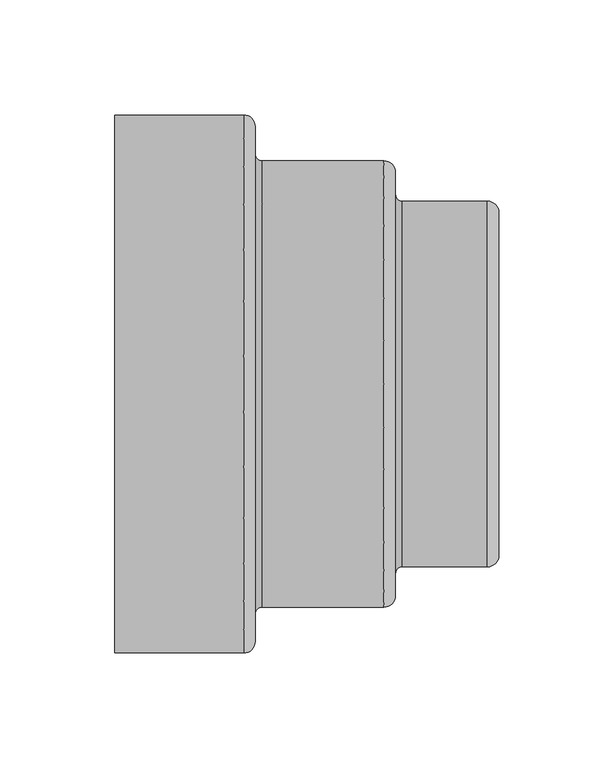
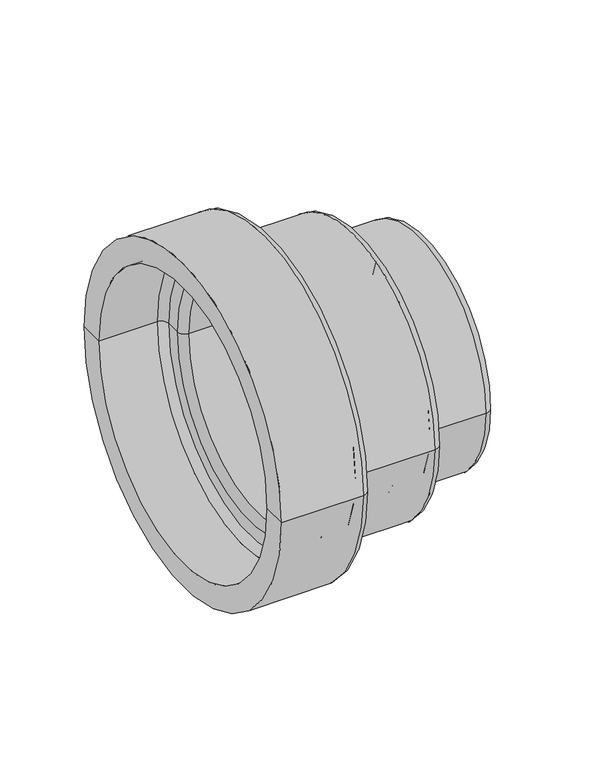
"""IFC4 building model written with IfcOpenShell, lengths in millimetres: duct fitting geometry, HEATPEX - ARIA ADURO - Redukcja : HEATPEX - ARIA ADURO - Redukcja."""

from ifc_helpers import new_model, si_unit, point, frame, origin, place, context, project, spatial, polyline, circle_curve, ellipse_curve, trimmed, source, transform, mapped, element, save
from ifc_brep_helpers import plane_surface, cylinder_surface, revolved_surface, advanced_brep


def duct_fitting_39894b4e(model_context):
    return source(origin(), model_context, "Body", "AdvancedBrep", [
        advanced_brep(
        [(-83.5, -117.0, 0.0), (-83.5, 117.0, 0.0), (-27.5, 117.0, 0.0), (-27.5, -117.0, 0.0), (-83.5, -100.0, 0.0), (-83.5, 100.0, 0.0), (-43.5, -100.0, 0.0), (-43.5, 100.0, 0.0), (-38.5, -95.0, 0.0), (-38.5, 95.0, 0.0), (-38.5, -85.0, 0.0), (-38.5, 85.0, 0.0), (-33.5, -80.0, 0.0), (-33.5, 80.0, 0.0), (17.5, -80.0, 0.0), (17.5, 80.0, 0.0), (22.5, -75.0, 0.0), (22.5, 75.0, 0.0), (22.5, -67.5, 0.0), (22.5, 67.5, 0.0), (27.5, -62.5, 0.0), (27.5, 62.5, 0.0), (80.5, -62.5, 0.0), (80.5, 62.5, 0.0), (83.5, -65.5, 0.0), (83.5, 65.5, 0.0), (83.5, -74.5000001, 0.0), (83.5, 74.5000001, 0.0), (78.5, -79.5000001, 0.0), (78.5, 79.5000001, 0.0), (41.5, -79.5000001, 0.0), (41.5, 79.5000001, 0.0), (38.5, -82.5000001, 0.0), (38.5, 82.5000001, 0.0), (38.5, -91.9999999, 0.0), (38.5, 91.9999999, 0.0), (33.5, -96.9999999, 0.0), (33.5, 96.9999999, 0.0), (-19.5, -96.9999999, 0.0), (-19.5, 96.9999999, 0.0), (-22.5, -99.9999999, 0.0), (-22.5, 99.9999999, 0.0), (-22.5, -112.0, 0.0), (-22.5, 112.0, 0.0)],
        [
            (0, 1, circle_curve(frame((-83.5, 0.0, 0.0), z_axis=(1.0, 0.0, 0.0), x_axis=(0.0, 1.0, 0.0)), 117.0)),
            (1, 2),
            (2, 3, circle_curve(frame((-27.5, 0.0, 0.0), z_axis=(-1.0, 0.0, 0.0), x_axis=(0.0, 1.0, 0.0)), 117.0)),
            (3, 0),
            (1, 0, circle_curve(frame((-83.5, 0.0, 0.0), z_axis=(1.0, 0.0, 0.0), x_axis=(0.0, 1.0, 0.0)), 117.0)),
            (3, 2, circle_curve(frame((-27.5, 0.0, 0.0), z_axis=(-1.0, 0.0, 0.0), x_axis=(0.0, 1.0, 0.0)), 117.0)),
            (0, 4),
            (4, 5, circle_curve(frame((-83.5, 0.0, 0.0), z_axis=(1.0, 0.0, 0.0), x_axis=(0.0, 1.0, 0.0)), 100.0)),
            (5, 1),
            (5, 4, circle_curve(frame((-83.5, 0.0, 0.0), z_axis=(1.0, 0.0, 0.0), x_axis=(0.0, 1.0, 0.0)), 100.0)),
            (4, 6),
            (6, 7, circle_curve(frame((-43.5, 0.0, 0.0), z_axis=(1.0, 0.0, 0.0), x_axis=(0.0, 1.0, 0.0)), 100.0)),
            (7, 5),
            (7, 6, circle_curve(frame((-43.5, 0.0, 0.0), z_axis=(1.0, 0.0, 0.0), x_axis=(0.0, 1.0, 0.0)), 100.0)),
            (6, 8, circle_curve(frame((-43.5, -95.0, 0.0), z_axis=(0.0, 0.0, 1.0), x_axis=(1.0, 0.0, 0.0)), 5.0)),
            (8, 9, circle_curve(frame((-38.5, 0.0, 0.0), z_axis=(1.0, 0.0, 0.0), x_axis=(0.0, 1.0, 0.0)), 95.0)),
            (9, 7, circle_curve(frame((-43.5, 95.0, 0.0), z_axis=(0.0, 0.0, 1.0), x_axis=(1.0, 0.0, 0.0)), 5.0)),
            (9, 8, circle_curve(frame((-38.5, 0.0, 0.0), z_axis=(1.0, 0.0, 0.0), x_axis=(0.0, 1.0, 0.0)), 95.0)),
            (8, 10),
            (10, 11, circle_curve(frame((-38.5, 0.0, 0.0), z_axis=(1.0, 0.0, 0.0), x_axis=(0.0, 1.0, 0.0)), 85.0)),
            (11, 9),
            (11, 10, circle_curve(frame((-38.5, 0.0, 0.0), z_axis=(1.0, 0.0, 0.0), x_axis=(0.0, 1.0, 0.0)), 85.0)),
            (10, 12, circle_curve(frame((-33.5, -85.0, 0.0), z_axis=(0.0, 0.0, -1.0), x_axis=(1.0, 0.0, 0.0)), 5.0)),
            (12, 13, circle_curve(frame((-33.5, 0.0, 0.0), z_axis=(1.0, 0.0, 0.0), x_axis=(0.0, 1.0, 0.0)), 80.0)),
            (13, 11, circle_curve(frame((-33.5, 85.0, 0.0), z_axis=(0.0, 0.0, -1.0), x_axis=(1.0, 0.0, 0.0)), 5.0)),
            (13, 12, circle_curve(frame((-33.5, 0.0, 0.0), z_axis=(1.0, 0.0, 0.0), x_axis=(0.0, 1.0, 0.0)), 80.0)),
            (12, 14),
            (14, 15, circle_curve(frame((17.5, 0.0, 0.0), z_axis=(1.0, 0.0, 0.0), x_axis=(0.0, 1.0, 0.0)), 80.0)),
            (15, 13),
            (15, 14, circle_curve(frame((17.5, 0.0, 0.0), z_axis=(1.0, 0.0, 0.0), x_axis=(0.0, 1.0, 0.0)), 80.0)),
            (14, 16, circle_curve(frame((17.5, -75.0, 0.0), z_axis=(0.0, 0.0, 1.0), x_axis=(1.0, 0.0, 0.0)), 5.0)),
            (16, 17, circle_curve(frame((22.5, 0.0, 0.0), z_axis=(1.0, 0.0, 0.0), x_axis=(0.0, 1.0, 0.0)), 75.0)),
            (17, 15, circle_curve(frame((17.5, 75.0, 0.0), z_axis=(0.0, 0.0, 1.0), x_axis=(1.0, 0.0, 0.0)), 5.0)),
            (17, 16, circle_curve(frame((22.5, 0.0, 0.0), z_axis=(1.0, 0.0, 0.0), x_axis=(0.0, 1.0, 0.0)), 75.0)),
            (16, 18),
            (18, 19, circle_curve(frame((22.5, 0.0, 0.0), z_axis=(1.0, 0.0, 0.0), x_axis=(0.0, 1.0, 0.0)), 67.5)),
            (19, 17),
            (19, 18, circle_curve(frame((22.5, 0.0, 0.0), z_axis=(1.0, 0.0, 0.0), x_axis=(0.0, 1.0, 0.0)), 67.5)),
            (18, 20, circle_curve(frame((27.5, -67.5, 0.0), z_axis=(0.0, 0.0, -1.0), x_axis=(1.0, 0.0, 0.0)), 5.0)),
            (20, 21, circle_curve(frame((27.5, 0.0, 0.0), z_axis=(1.0, 0.0, 0.0), x_axis=(0.0, 1.0, 0.0)), 62.5)),
            (21, 19, circle_curve(frame((27.5, 67.5, 0.0), z_axis=(0.0, 0.0, -1.0), x_axis=(1.0, 0.0, 0.0)), 5.0)),
            (21, 20, circle_curve(frame((27.5, 0.0, 0.0), z_axis=(1.0, 0.0, 0.0), x_axis=(0.0, 1.0, 0.0)), 62.5)),
            (20, 22),
            (22, 23, circle_curve(frame((80.5, 0.0, 0.0), z_axis=(1.0, 0.0, 0.0), x_axis=(0.0, 1.0, 0.0)), 62.5)),
            (23, 21),
            (23, 22, circle_curve(frame((80.5, 0.0, 0.0), z_axis=(1.0, 0.0, 0.0), x_axis=(0.0, 1.0, 0.0)), 62.5)),
            (22, 24, circle_curve(frame((80.5, -65.5, 0.0), z_axis=(0.0, 0.0, -1.0), x_axis=(1.0, 0.0, 0.0)), 3.0)),
            (24, 25, circle_curve(frame((83.5, 0.0, 0.0), z_axis=(1.0, 0.0, 0.0), x_axis=(0.0, 1.0, 0.0)), 65.5)),
            (25, 23, circle_curve(frame((80.5, 65.5, 0.0), z_axis=(0.0, 0.0, -1.0), x_axis=(1.0, 0.0, 0.0)), 3.0)),
            (25, 24, circle_curve(frame((83.5, 0.0, 0.0), z_axis=(1.0, 0.0, 0.0), x_axis=(0.0, 1.0, 0.0)), 65.5)),
            (24, 26),
            (26, 27, circle_curve(frame((83.5, 0.0, 0.0), z_axis=(1.0, 0.0, 0.0), x_axis=(0.0, 1.0, 0.0)), 74.5000001)),
            (27, 25),
            (27, 26, circle_curve(frame((83.5, 0.0, 0.0), z_axis=(1.0, 0.0, 0.0), x_axis=(0.0, 1.0, 0.0)), 74.5000001)),
            (26, 28, circle_curve(frame((78.5, -74.5000001, 0.0), z_axis=(0.0, 0.0, -1.0), x_axis=(1.0, 0.0, 0.0)), 5.0)),
            (28, 29, circle_curve(frame((78.5, 0.0, 0.0), z_axis=(1.0, 0.0, 0.0), x_axis=(0.0, 1.0, 0.0)), 79.5000001)),
            (29, 27, circle_curve(frame((78.5, 74.5000001, 0.0), z_axis=(0.0, 0.0, -1.0), x_axis=(1.0, 0.0, 0.0)), 5.0)),
            (29, 28, circle_curve(frame((78.5, 0.0, 0.0), z_axis=(1.0, 0.0, 0.0), x_axis=(0.0, 1.0, 0.0)), 79.5000001)),
            (28, 30),
            (30, 31, circle_curve(frame((41.5, 0.0, 0.0), z_axis=(1.0, 0.0, 0.0), x_axis=(0.0, 1.0, 0.0)), 79.5000001)),
            (31, 29),
            (31, 30, circle_curve(frame((41.5, 0.0, 0.0), z_axis=(1.0, 0.0, 0.0), x_axis=(0.0, 1.0, 0.0)), 79.5000001)),
            (30, 32, circle_curve(frame((41.5, -82.5000001, 0.0), z_axis=(0.0, 0.0, 1.0), x_axis=(1.0, 0.0, 0.0)), 3.0)),
            (32, 33, circle_curve(frame((38.5, 0.0, 0.0), z_axis=(1.0, 0.0, 0.0), x_axis=(0.0, 1.0, 0.0)), 82.5000001)),
            (33, 31, circle_curve(frame((41.5, 82.5000001, 0.0), z_axis=(0.0, 0.0, 1.0), x_axis=(1.0, 0.0, 0.0)), 3.0)),
            (33, 32, circle_curve(frame((38.5, 0.0, 0.0), z_axis=(1.0, 0.0, 0.0), x_axis=(0.0, 1.0, 0.0)), 82.5000001)),
            (32, 34),
            (34, 35, circle_curve(frame((38.5, 0.0, 0.0), z_axis=(1.0, 0.0, 0.0), x_axis=(0.0, 1.0, 0.0)), 91.9999999)),
            (35, 33),
            (35, 34, circle_curve(frame((38.5, 0.0, 0.0), z_axis=(1.0, 0.0, 0.0), x_axis=(0.0, 1.0, 0.0)), 91.9999999)),
            (34, 36, circle_curve(frame((33.5, -91.9999999, 0.0), z_axis=(0.0, 0.0, -1.0), x_axis=(1.0, 0.0, 0.0)), 5.0)),
            (36, 37, circle_curve(frame((33.5, 0.0, 0.0), z_axis=(1.0, 0.0, 0.0), x_axis=(0.0, 1.0, 0.0)), 96.9999999)),
            (37, 35, circle_curve(frame((33.5, 91.9999999, 0.0), z_axis=(0.0, 0.0, -1.0), x_axis=(1.0, 0.0, 0.0)), 5.0)),
            (37, 36, circle_curve(frame((33.5, 0.0, 0.0), z_axis=(1.0, 0.0, 0.0), x_axis=(0.0, 1.0, 0.0)), 96.9999999)),
            (36, 38),
            (38, 39, circle_curve(frame((-19.5, 0.0, 0.0), z_axis=(1.0, 0.0, 0.0), x_axis=(0.0, 1.0, 0.0)), 96.9999999)),
            (39, 37),
            (39, 38, circle_curve(frame((-19.5, 0.0, 0.0), z_axis=(1.0, 0.0, 0.0), x_axis=(0.0, 1.0, 0.0)), 96.9999999)),
            (38, 40, circle_curve(frame((-19.5, -99.9999999, 0.0), z_axis=(0.0, 0.0, 1.0), x_axis=(1.0, 0.0, 0.0)), 3.0)),
            (40, 41, circle_curve(frame((-22.5, 0.0, 0.0), z_axis=(1.0, 0.0, 0.0), x_axis=(0.0, 1.0, 0.0)), 99.9999999)),
            (41, 39, circle_curve(frame((-19.5, 99.9999999, 0.0), z_axis=(0.0, 0.0, 1.0), x_axis=(1.0, 0.0, 0.0)), 3.0)),
            (41, 40, circle_curve(frame((-22.5, 0.0, 0.0), z_axis=(1.0, 0.0, 0.0), x_axis=(0.0, 1.0, 0.0)), 99.9999999)),
            (40, 42),
            (42, 43, circle_curve(frame((-22.5, 0.0, 0.0), z_axis=(1.0, 0.0, 0.0), x_axis=(0.0, 1.0, 0.0)), 112.0)),
            (43, 41),
            (43, 42, circle_curve(frame((-22.5, 0.0, 0.0), z_axis=(1.0, 0.0, 0.0), x_axis=(0.0, 1.0, 0.0)), 112.0)),
            (2, 43, circle_curve(frame((-27.5, 112.0, 0.0), z_axis=(0.0, 0.0, -1.0), x_axis=(1.0, 0.0, 0.0)), 5.0)),
            (42, 3, circle_curve(frame((-27.5, -112.0, 0.0), z_axis=(0.0, 0.0, -1.0), x_axis=(1.0, 0.0, 0.0)), 5.0)),
        ],
        [
            cylinder_surface(frame((-108.5, 0.0, 0.0), z_axis=(-1.0, 0.0, 0.0), x_axis=(0.0, 1.0, 0.0)), 117.0),
            plane_surface(frame((-83.5, 0.0, 0.0), z_axis=(-1.0, 0.0, 0.0), x_axis=(0.0, 1.0, 0.0))),
            revolved_surface(polyline([(-83.5, 100.0, 0.0), (-43.5, 100.0, 0.0)]), (-108.5, 0.0, 0.0), (-1.0, 0.0, 0.0)),
            revolved_surface(trimmed(ellipse_curve(frame((-43.5, 95.0, 0.0), z_axis=(0.0, 0.0, -1.0), x_axis=(1.0, 0.0, 0.0)), 5.0, 5.0), [point((-43.5, 100.0, 0.0))], [point((-38.5, 95.0, 0.0))], True, "CARTESIAN"), (-108.5, 0.0, 0.0), (-1.0, 0.0, 0.0)),
            plane_surface(frame((-38.5, 0.0, 0.0), z_axis=(-1.0, 0.0, 0.0), x_axis=(0.0, 1.0, 0.0))),
            revolved_surface(trimmed(ellipse_curve(frame((-33.5, 85.0, 0.0), z_axis=(0.0, 0.0, 1.0), x_axis=(1.0, 0.0, 0.0)), 5.0, 5.0), [point((-38.5, 85.0, 0.0))], [point((-33.5, 80.0, 0.0))], True, "CARTESIAN"), (-108.5, 0.0, 0.0), (-1.0, 0.0, 0.0)),
            revolved_surface(polyline([(-33.5, 80.0, 0.0), (17.5, 80.0, 0.0)]), (-108.5, 0.0, 0.0), (-1.0, 0.0, 0.0)),
            revolved_surface(trimmed(ellipse_curve(frame((17.5, 75.0, 0.0), z_axis=(0.0, 0.0, -1.0), x_axis=(1.0, 0.0, 0.0)), 5.0, 5.0), [point((17.5, 80.0, 0.0))], [point((22.5, 75.0, 0.0))], True, "CARTESIAN"), (-108.5, 0.0, 0.0), (-1.0, 0.0, 0.0)),
            plane_surface(frame((22.5, 0.0, 0.0), z_axis=(-1.0, 0.0, 0.0), x_axis=(0.0, 1.0, 0.0))),
            revolved_surface(trimmed(ellipse_curve(frame((27.5, 67.5, 0.0), z_axis=(0.0, 0.0, 1.0), x_axis=(1.0, 0.0, 0.0)), 5.0, 5.0), [point((22.5, 67.5, 0.0))], [point((27.5, 62.5, 0.0))], True, "CARTESIAN"), (-108.5, 0.0, 0.0), (-1.0, 0.0, 0.0)),
            revolved_surface(polyline([(27.5, 62.5, 0.0), (80.5, 62.5, 0.0)]), (-108.5, 0.0, 0.0), (-1.0, 0.0, 0.0)),
            revolved_surface(trimmed(ellipse_curve(frame((80.5, 65.5, 0.0), z_axis=(0.0, 0.0, 1.0), x_axis=(1.0, 0.0, 0.0)), 3.0, 3.0), [point((80.5, 62.5, 0.0))], [point((83.5, 65.5, 0.0))], True, "CARTESIAN"), (-108.5, 0.0, 0.0), (-1.0, 0.0, 0.0)),
            plane_surface(frame((83.5, 0.0, 0.0), z_axis=(1.0, 0.0, 0.0), x_axis=(0.0, 1.0, 0.0))),
            revolved_surface(trimmed(ellipse_curve(frame((78.5, 74.5000001, 0.0), z_axis=(0.0, 0.0, 1.0), x_axis=(1.0, 0.0, 0.0)), 5.0, 5.0), [point((83.5, 74.5000001, 0.0))], [point((78.5, 79.5000001, 0.0))], True, "CARTESIAN"), (-108.5, 0.0, 0.0), (-1.0, 0.0, 0.0)),
            cylinder_surface(frame((-108.5, 0.0, 0.0), z_axis=(-1.0, 0.0, 0.0), x_axis=(0.0, 1.0, 0.0)), 79.5000001),
            revolved_surface(trimmed(ellipse_curve(frame((41.5, 82.5000001, 0.0), z_axis=(0.0, 0.0, -1.0), x_axis=(1.0, 0.0, 0.0)), 3.0, 3.0), [point((41.5, 79.5000001, 0.0))], [point((38.5, 82.5000001, 0.0))], True, "CARTESIAN"), (-108.5, 0.0, 0.0), (-1.0, 0.0, 0.0)),
            plane_surface(frame((38.5, 0.0, 0.0), z_axis=(1.0, 0.0, 0.0), x_axis=(0.0, 1.0, 0.0))),
            revolved_surface(trimmed(ellipse_curve(frame((33.5, 91.9999999, 0.0), z_axis=(0.0, 0.0, 1.0), x_axis=(1.0, 0.0, 0.0)), 5.0, 5.0), [point((38.5, 91.9999999, 0.0))], [point((33.5, 96.9999999, 0.0))], True, "CARTESIAN"), (-108.5, 0.0, 0.0), (-1.0, 0.0, 0.0)),
            cylinder_surface(frame((-108.5, 0.0, 0.0), z_axis=(-1.0, 0.0, 0.0), x_axis=(0.0, 1.0, 0.0)), 96.9999999),
            revolved_surface(trimmed(ellipse_curve(frame((-19.5, 99.9999999, 0.0), z_axis=(0.0, 0.0, -1.0), x_axis=(1.0, 0.0, 0.0)), 3.0, 3.0), [point((-19.5, 96.9999999, 0.0))], [point((-22.5, 99.9999999, 0.0))], True, "CARTESIAN"), (-108.5, 0.0, 0.0), (-1.0, 0.0, 0.0)),
            plane_surface(frame((-22.5, 0.0, 0.0), z_axis=(1.0, 0.0, 0.0), x_axis=(0.0, 1.0, 0.0))),
            revolved_surface(trimmed(ellipse_curve(frame((-27.5, 112.0, 0.0), z_axis=(0.0, 0.0, 1.0), x_axis=(1.0, 0.0, 0.0)), 5.0, 5.0), [point((-22.5, 112.0, 0.0))], [point((-27.5, 117.0, 0.0))], True, "CARTESIAN"), (-108.5, 0.0, 0.0), (-1.0, 0.0, 0.0)),
        ],
        [
            (0, [[1, 2, 3, 4]]),
            (0, [[-2, 5, -4, 6]]),
            (1, [[-1, 7, 8, 9]]),
            (1, [[-5, -9, 10, -7]]),
            (2, [[-8, 11, 12, 13]]),
            (2, [[-10, -13, 14, -11]]),
            (3, [[-12, 15, 16, 17]]),
            (3, [[-14, -17, 18, -15]]),
            (4, [[-16, 19, 20, 21]]),
            (4, [[-18, -21, 22, -19]]),
            (5, [[-20, 23, 24, 25]]),
            (5, [[-22, -25, 26, -23]]),
            (6, [[-24, 27, 28, 29]]),
            (6, [[-26, -29, 30, -27]]),
            (7, [[-28, 31, 32, 33]]),
            (7, [[-30, -33, 34, -31]]),
            (8, [[-32, 35, 36, 37]]),
            (8, [[-34, -37, 38, -35]]),
            (9, [[-36, 39, 40, 41]]),
            (9, [[-38, -41, 42, -39]]),
            (10, [[-40, 43, 44, 45]]),
            (10, [[-42, -45, 46, -43]]),
            (11, [[-44, 47, 48, 49]]),
            (11, [[-46, -49, 50, -47]]),
            (12, [[-48, 51, 52, 53]]),
            (12, [[-50, -53, 54, -51]]),
            (13, [[-52, 55, 56, 57]]),
            (13, [[-54, -57, 58, -55]]),
            (14, [[-56, 59, 60, 61]]),
            (14, [[-58, -61, 62, -59]]),
            (15, [[-60, 63, 64, 65]]),
            (15, [[-62, -65, 66, -63]]),
            (16, [[-64, 67, 68, 69]]),
            (16, [[-66, -69, 70, -67]]),
            (17, [[-68, 71, 72, 73]]),
            (17, [[-70, -73, 74, -71]]),
            (18, [[-72, 75, 76, 77]]),
            (18, [[-74, -77, 78, -75]]),
            (19, [[-76, 79, 80, 81]]),
            (19, [[-78, -81, 82, -79]]),
            (20, [[-80, 83, 84, 85]]),
            (20, [[-82, -85, 86, -83]]),
            (21, [[-3, 87, -84, 88]]),
            (21, [[-6, -88, -86, -87]]),
        ],
    ),
    ])


if __name__ == "__main__":
    model = new_model("IFC4")
    model_context = context("Model", 3, world=origin())
    ifc_project = project(units=[si_unit("LENGTHUNIT", "METRE", prefix="MILLI")], contexts=[model_context])
    site = spatial("IfcSite", under=ifc_project)
    building = spatial("IfcBuilding", under=site)
    placement = place(None, origin())
    duct_fitting_shape = duct_fitting_39894b4e(model_context)
    element("IfcDuctFitting", 1, ObjectType="HEATPEX - ARIA ADURO - Redukcja : HEATPEX - ARIA ADURO - Redukcja", at=placement, inside=building, context=model_context, shape_type="MappedRepresentation", body=[
        mapped(duct_fitting_shape, transform((0.0, 0.0, 0.0), x_axis=(1.0, 0.0, 0.0), y_axis=(0.0, 1.0, 0.0), z_axis=(0.0, 0.0, 1.0))),
    ])
    save(model, "model.ifc")
